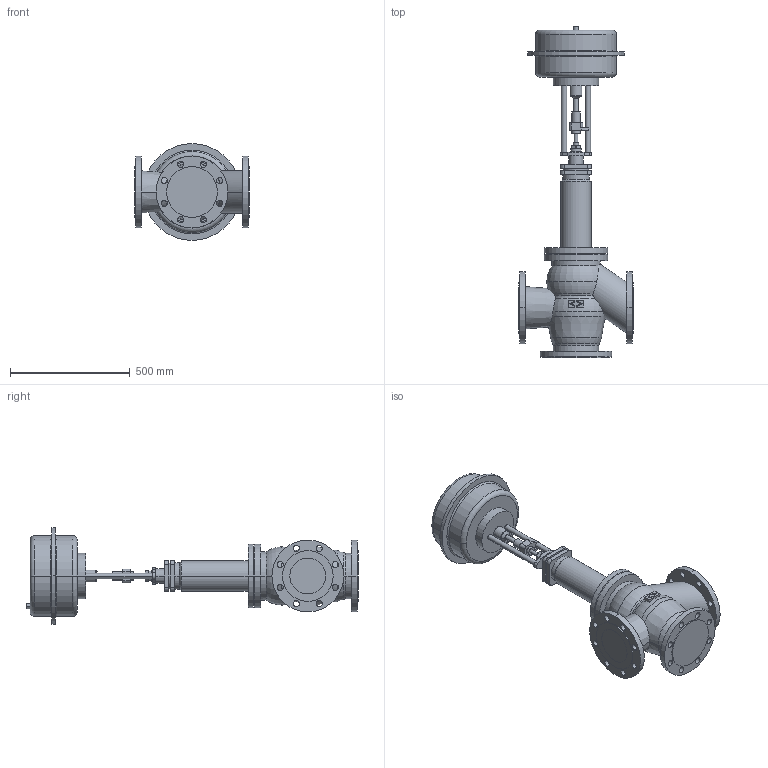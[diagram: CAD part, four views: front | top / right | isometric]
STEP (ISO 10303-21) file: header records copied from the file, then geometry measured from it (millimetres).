
FILE_DESCRIPTION(('OneSpaceDesigner STEP Export'),'2;1');
FILE_NAME('c000000742.stp','2006-09-21T 8:42:34',(''),(''),'OneSpace Designer STEP processor for AP214 (Solid Model)','OneSpace Designer 13.20A 18-Aug-2005 (C) CoCreate Software GmbH','');
FILE_SCHEMA(('AUTOMOTIVE_DESIGN { 1 0 10303 214 1 1 1 1 }'));
Length unit declared in the file: millimetre
Products named in the file (2): 1; 2
Bounding box: 480 x 1389.2 x 405 mm (x, y, z)
Volume: 52829550.7 mm3; surface area: 1702395.3 mm2
Topology: 2 solids, 2 shells, 257 faces, 630 edges, 412 vertices
Faces by surface type: cylinder 130, plane 93, torus 26, cone 8
Entity records: 7034 total; most frequent: CARTESIAN_POINT 1375, ORIENTED_EDGE 1260, DIRECTION 1036, EDGE_CURVE 630, VERTEX_POINT 412, AXIS2_PLACEMENT_3D 381, EDGE_LOOP 340, VECTOR 274
